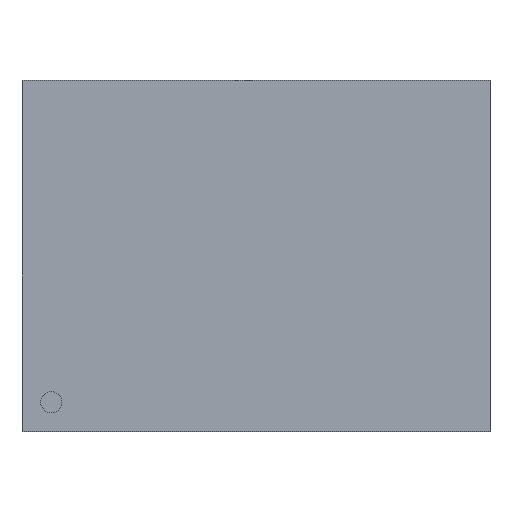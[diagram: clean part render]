
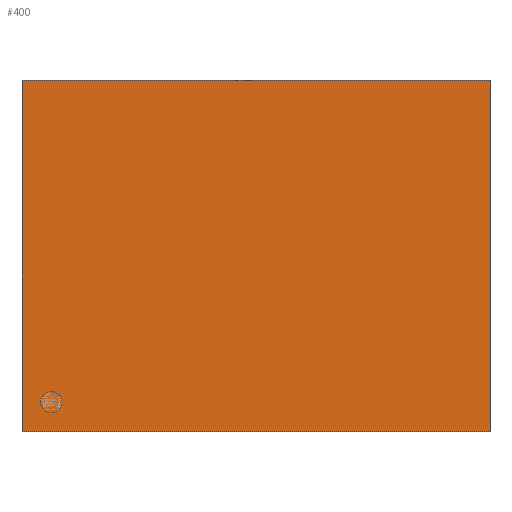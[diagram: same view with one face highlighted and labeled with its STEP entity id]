
A CAD part, top view. The second image highlights one B-rep face of the part: STEP entity #400.
In plain terms, the highlighted planar face has unit normal (0, 0, 1).
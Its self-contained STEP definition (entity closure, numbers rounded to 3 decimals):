
#86 = VERTEX_POINT('',#87);
#87 = CARTESIAN_POINT('',(-2.,-1.5,0.55));
#94 = PLANE('',#95);
#95 = AXIS2_PLACEMENT_3D('',#96,#97,#98);
#96 = CARTESIAN_POINT('',(-2.,-1.5,0.02));
#97 = DIRECTION('',(1.,0.,0.));
#98 = DIRECTION('',(0.,0.,1.));
#106 = PLANE('',#107);
#107 = AXIS2_PLACEMENT_3D('',#108,#109,#110);
#108 = CARTESIAN_POINT('',(-2.,-1.5,0.02));
#109 = DIRECTION('',(0.,1.,0.));
#110 = DIRECTION('',(0.,0.,1.));
#147 = VERTEX_POINT('',#148);
#148 = CARTESIAN_POINT('',(-2.,1.5,0.55));
#162 = PLANE('',#163);
#163 = AXIS2_PLACEMENT_3D('',#164,#165,#166);
#164 = CARTESIAN_POINT('',(-2.,1.5,0.02));
#165 = DIRECTION('',(0.,1.,0.));
#166 = DIRECTION('',(0.,0.,1.));
#174 = EDGE_CURVE('',#86,#147,#175,.T.);
#175 = SURFACE_CURVE('',#176,(#180,#187),.PCURVE_S1.);
#176 = LINE('',#177,#178);
#177 = CARTESIAN_POINT('',(-2.,-1.5,0.55));
#178 = VECTOR('',#179,1.);
#179 = DIRECTION('',(0.,1.,0.));
#180 = PCURVE('',#94,#181);
#181 = DEFINITIONAL_REPRESENTATION('',(#182),#186);
#182 = LINE('',#183,#184);
#183 = CARTESIAN_POINT('',(0.53,0.));
#184 = VECTOR('',#185,1.);
#185 = DIRECTION('',(0.,-1.));
#186 = ( GEOMETRIC_REPRESENTATION_CONTEXT(2) 
PARAMETRIC_REPRESENTATION_CONTEXT() REPRESENTATION_CONTEXT('2D SPACE',''
  ) );
#187 = PCURVE('',#188,#193);
#188 = PLANE('',#189);
#189 = AXIS2_PLACEMENT_3D('',#190,#191,#192);
#190 = CARTESIAN_POINT('',(-2.,-1.5,0.55));
#191 = DIRECTION('',(0.,0.,1.));
#192 = DIRECTION('',(1.,0.,0.));
#193 = DEFINITIONAL_REPRESENTATION('',(#194),#198);
#194 = LINE('',#195,#196);
#195 = CARTESIAN_POINT('',(0.,0.));
#196 = VECTOR('',#197,1.);
#197 = DIRECTION('',(0.,1.));
#198 = ( GEOMETRIC_REPRESENTATION_CONTEXT(2) 
PARAMETRIC_REPRESENTATION_CONTEXT() REPRESENTATION_CONTEXT('2D SPACE',''
  ) );
#206 = VERTEX_POINT('',#207);
#207 = CARTESIAN_POINT('',(2.,-1.5,0.55));
#214 = PLANE('',#215);
#215 = AXIS2_PLACEMENT_3D('',#216,#217,#218);
#216 = CARTESIAN_POINT('',(2.,-1.5,0.02));
#217 = DIRECTION('',(1.,0.,0.));
#218 = DIRECTION('',(0.,0.,1.));
#257 = VERTEX_POINT('',#258);
#258 = CARTESIAN_POINT('',(2.,1.5,0.55));
#279 = EDGE_CURVE('',#206,#257,#280,.T.);
#280 = SURFACE_CURVE('',#281,(#285,#292),.PCURVE_S1.);
#281 = LINE('',#282,#283);
#282 = CARTESIAN_POINT('',(2.,-1.5,0.55));
#283 = VECTOR('',#284,1.);
#284 = DIRECTION('',(0.,1.,0.));
#285 = PCURVE('',#214,#286);
#286 = DEFINITIONAL_REPRESENTATION('',(#287),#291);
#287 = LINE('',#288,#289);
#288 = CARTESIAN_POINT('',(0.53,0.));
#289 = VECTOR('',#290,1.);
#290 = DIRECTION('',(0.,-1.));
#291 = ( GEOMETRIC_REPRESENTATION_CONTEXT(2) 
PARAMETRIC_REPRESENTATION_CONTEXT() REPRESENTATION_CONTEXT('2D SPACE',''
  ) );
#292 = PCURVE('',#188,#293);
#293 = DEFINITIONAL_REPRESENTATION('',(#294),#298);
#294 = LINE('',#295,#296);
#295 = CARTESIAN_POINT('',(4.,0.));
#296 = VECTOR('',#297,1.);
#297 = DIRECTION('',(0.,1.));
#298 = ( GEOMETRIC_REPRESENTATION_CONTEXT(2) 
PARAMETRIC_REPRESENTATION_CONTEXT() REPRESENTATION_CONTEXT('2D SPACE',''
  ) );
#325 = EDGE_CURVE('',#86,#206,#326,.T.);
#326 = SURFACE_CURVE('',#327,(#331,#338),.PCURVE_S1.);
#327 = LINE('',#328,#329);
#328 = CARTESIAN_POINT('',(-2.,-1.5,0.55));
#329 = VECTOR('',#330,1.);
#330 = DIRECTION('',(1.,0.,0.));
#331 = PCURVE('',#106,#332);
#332 = DEFINITIONAL_REPRESENTATION('',(#333),#337);
#333 = LINE('',#334,#335);
#334 = CARTESIAN_POINT('',(0.53,0.));
#335 = VECTOR('',#336,1.);
#336 = DIRECTION('',(0.,1.));
#337 = ( GEOMETRIC_REPRESENTATION_CONTEXT(2) 
PARAMETRIC_REPRESENTATION_CONTEXT() REPRESENTATION_CONTEXT('2D SPACE',''
  ) );
#338 = PCURVE('',#188,#339);
#339 = DEFINITIONAL_REPRESENTATION('',(#340),#344);
#340 = LINE('',#341,#342);
#341 = CARTESIAN_POINT('',(0.,0.));
#342 = VECTOR('',#343,1.);
#343 = DIRECTION('',(1.,0.));
#344 = ( GEOMETRIC_REPRESENTATION_CONTEXT(2) 
PARAMETRIC_REPRESENTATION_CONTEXT() REPRESENTATION_CONTEXT('2D SPACE',''
  ) );
#372 = EDGE_CURVE('',#147,#257,#373,.T.);
#373 = SURFACE_CURVE('',#374,(#378,#385),.PCURVE_S1.);
#374 = LINE('',#375,#376);
#375 = CARTESIAN_POINT('',(-2.,1.5,0.55));
#376 = VECTOR('',#377,1.);
#377 = DIRECTION('',(1.,0.,0.));
#378 = PCURVE('',#162,#379);
#379 = DEFINITIONAL_REPRESENTATION('',(#380),#384);
#380 = LINE('',#381,#382);
#381 = CARTESIAN_POINT('',(0.53,0.));
#382 = VECTOR('',#383,1.);
#383 = DIRECTION('',(0.,1.));
#384 = ( GEOMETRIC_REPRESENTATION_CONTEXT(2) 
PARAMETRIC_REPRESENTATION_CONTEXT() REPRESENTATION_CONTEXT('2D SPACE',''
  ) );
#385 = PCURVE('',#188,#386);
#386 = DEFINITIONAL_REPRESENTATION('',(#387),#391);
#387 = LINE('',#388,#389);
#388 = CARTESIAN_POINT('',(0.,3.));
#389 = VECTOR('',#390,1.);
#390 = DIRECTION('',(1.,0.));
#391 = ( GEOMETRIC_REPRESENTATION_CONTEXT(2) 
PARAMETRIC_REPRESENTATION_CONTEXT() REPRESENTATION_CONTEXT('2D SPACE',''
  ) );
#400 = ADVANCED_FACE('',(#401),#188,.T.);
#401 = FACE_BOUND('',#402,.T.);
#402 = EDGE_LOOP('',(#403,#404,#405,#406));
#403 = ORIENTED_EDGE('',*,*,#174,.F.);
#404 = ORIENTED_EDGE('',*,*,#325,.T.);
#405 = ORIENTED_EDGE('',*,*,#279,.T.);
#406 = ORIENTED_EDGE('',*,*,#372,.F.);
